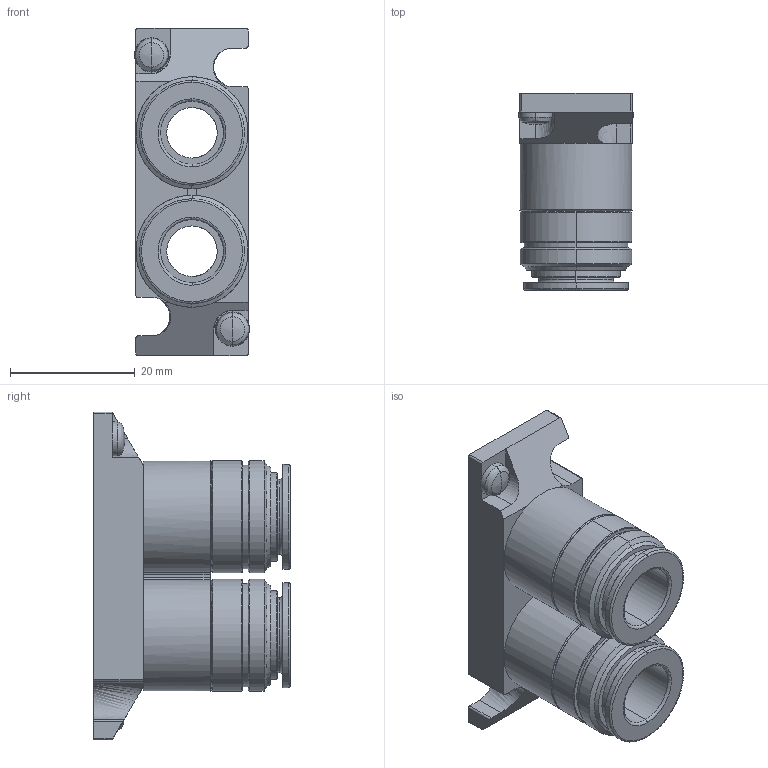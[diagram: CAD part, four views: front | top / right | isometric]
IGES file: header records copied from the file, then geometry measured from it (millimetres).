
Start section: ------------------------------------------------------------------------
Global section: file name: D:\ICADMX\tmp\trans3d_spg\CVICAD02.6676.F15-Port-PJ_16606.igs; native system: spGate; preprocessor: ver12.6.6; author: Unknown; organization: Unknown; date: 210712.184751; units: millimetre
Bounding box: 18.5 x 31.6 x 52.6 mm (x, y, z)
Volume: 13655.2 mm3; surface area: 7487.2 mm2
Topology: 1 solids, 1 shells, 146 faces, 342 edges, 206 vertices
Faces by surface type: bspline 146
